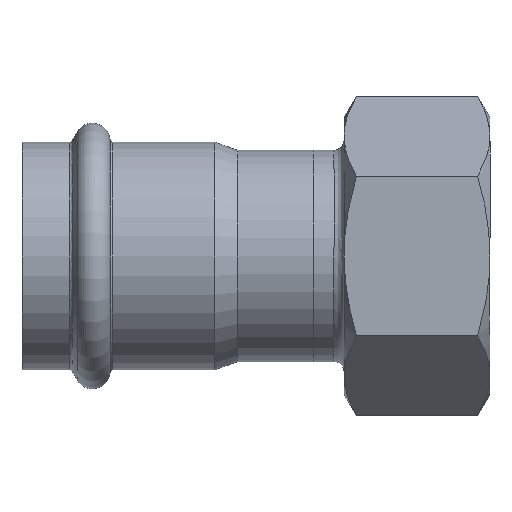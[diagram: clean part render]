
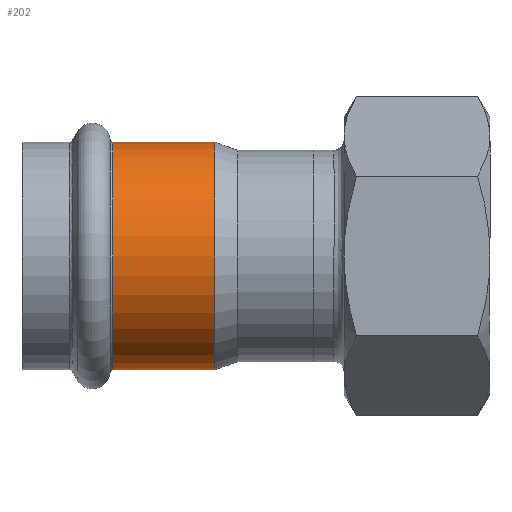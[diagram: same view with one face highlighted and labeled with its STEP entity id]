
A CAD part, front view. The second image highlights one B-rep face of the part: STEP entity #202.
In plain terms, the highlighted cylindrical face has radius 22.65 mm (diameter 45.3 mm), a full revolution.
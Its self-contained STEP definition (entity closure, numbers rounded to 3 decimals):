
#171=CARTESIAN_POINT('',(-40.008,22.65,0.));
#172=VERTEX_POINT('',#171);
#173=CARTESIAN_POINT('',(-40.008,0.,0.0));
#174=DIRECTION('',(-1.0,0.0,0.0));
#175=DIRECTION('',(0.0,-1.0,0.0));
#176=AXIS2_PLACEMENT_3D('',#173,#174,#175);
#177=CIRCLE('',#176,22.65);
#178=EDGE_CURVE('',#172,#172,#177,.T.);
#183=CARTESIAN_POINT('',(-30.122,0.,0.0));
#184=DIRECTION('',(1.0,0.,0.0));
#185=DIRECTION('',(0.0,1.0,0.0));
#186=AXIS2_PLACEMENT_3D('',#183,#184,#185);
#187=CYLINDRICAL_SURFACE('',#186,22.65);
#188=CARTESIAN_POINT('',(-19.736,22.65,0.0));
#189=VERTEX_POINT('',#188);
#190=CARTESIAN_POINT('',(-19.736,0.,0.0));
#191=DIRECTION('',(1.0,0.0,0.0));
#192=DIRECTION('',(0.0,1.0,0.0));
#193=AXIS2_PLACEMENT_3D('',#190,#191,#192);
#194=CIRCLE('',#193,22.65);
#195=EDGE_CURVE('',#189,#189,#194,.T.);
#196=ORIENTED_EDGE('',*,*,#195,.F.);
#197=EDGE_LOOP('',(#196));
#198=FACE_OUTER_BOUND('',#197,.T.);
#199=ORIENTED_EDGE('',*,*,#178,.F.);
#200=EDGE_LOOP('',(#199));
#201=FACE_BOUND('',#200,.T.);
#202=ADVANCED_FACE('',(#198,#201),#187,.T.);
